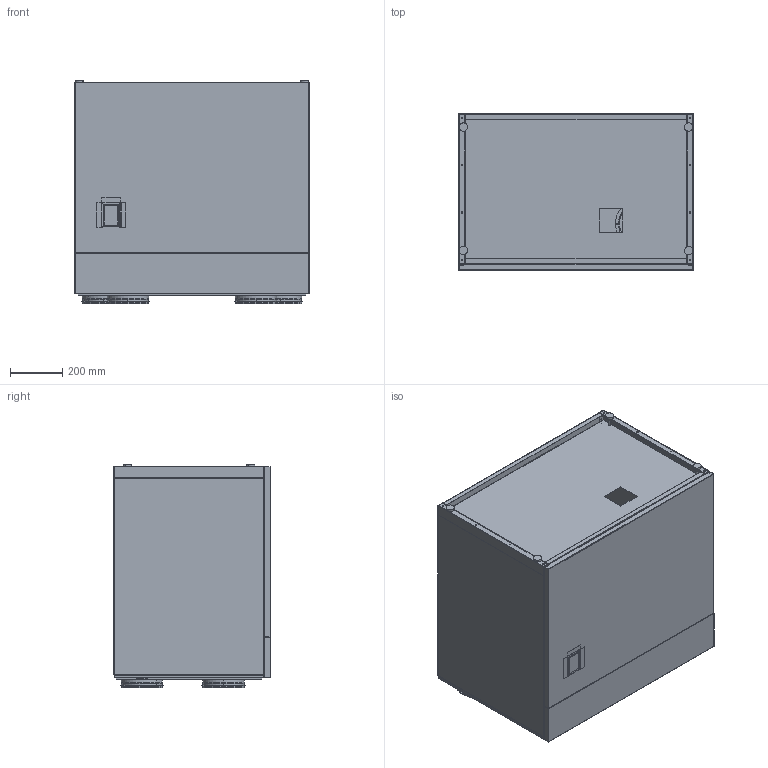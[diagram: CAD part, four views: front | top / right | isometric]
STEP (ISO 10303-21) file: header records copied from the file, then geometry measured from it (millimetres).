
FILE_DESCRIPTION (( 'STEP AP214' ), '1' );
FILE_NAME ('Combi 400 Top.STEP', '2023-05-10T05:49:41', ( '' ), ( '' ), 'SwSTEP 2.0', 'SolidWorks 2021', '' );
FILE_SCHEMA (( 'AUTOMOTIVE_DESIGN' ));
Length unit declared in the file: millimetre
Products named in the file (19): Ø160_dækplade_for_tegninger_Nr. 1; 313702; 701211a0030; 701211a0040; 7513480a0050; Combi 400 Top; 701211a0020; Ø160_dækplade_for_tegninger_Nr. 4; 7513480a0410; 701211a0010_Med hul for Touch panel; Compact P fordamperkasse; 7513480a0010; Ø160_dækplade_for_tegninger_Nr. 3; 160mm_rørstuds_Rev1; CTS602 panel dummy; CP2021-Stillefod; 7513480a0400; 7513480a0380; Ø160_dækplade_for_tegninger_Nr. 2
Assembly tree (24 placements, depth 3):
  Combi 400 Top
    701211a0020
    701211a0030
    701211a0040
    7513480a0380
    Compact P fordamperkasse
      7513480a0050
      7513480a0010
      7513480a0400
      160mm_rørstuds_Rev1  x4
      313702
    701211a0010_Med hul for Touch panel
    7513480a0410
    CTS602 panel dummy
    CP2021-Stillefod  x4
    Ø160_dækplade_for_tegninger_Nr. 4
    Ø160_dækplade_for_tegninger_Nr. 2
    Ø160_dækplade_for_tegninger_Nr. 1
    Ø160_dækplade_for_tegninger_Nr. 3
Bounding box: 900 x 603.9 x 860.24 mm (x, y, z)
Volume: 6433721.3 mm3; surface area: 9098229.6 mm2
Topology: 23 solids, 27 shells, 1637 faces, 4095 edges, 2518 vertices
Faces by surface type: plane 840, cylinder 678, torus 48, bspline 39, cone 32
Entity records: 47250 total; most frequent: CARTESIAN_POINT 9344, DIRECTION 7737, ORIENTED_EDGE 7446, EDGE_CURVE 3723, AXIS2_PLACEMENT_3D 2673, VECTOR 2391, LINE 2391, VERTEX_POINT 2290
